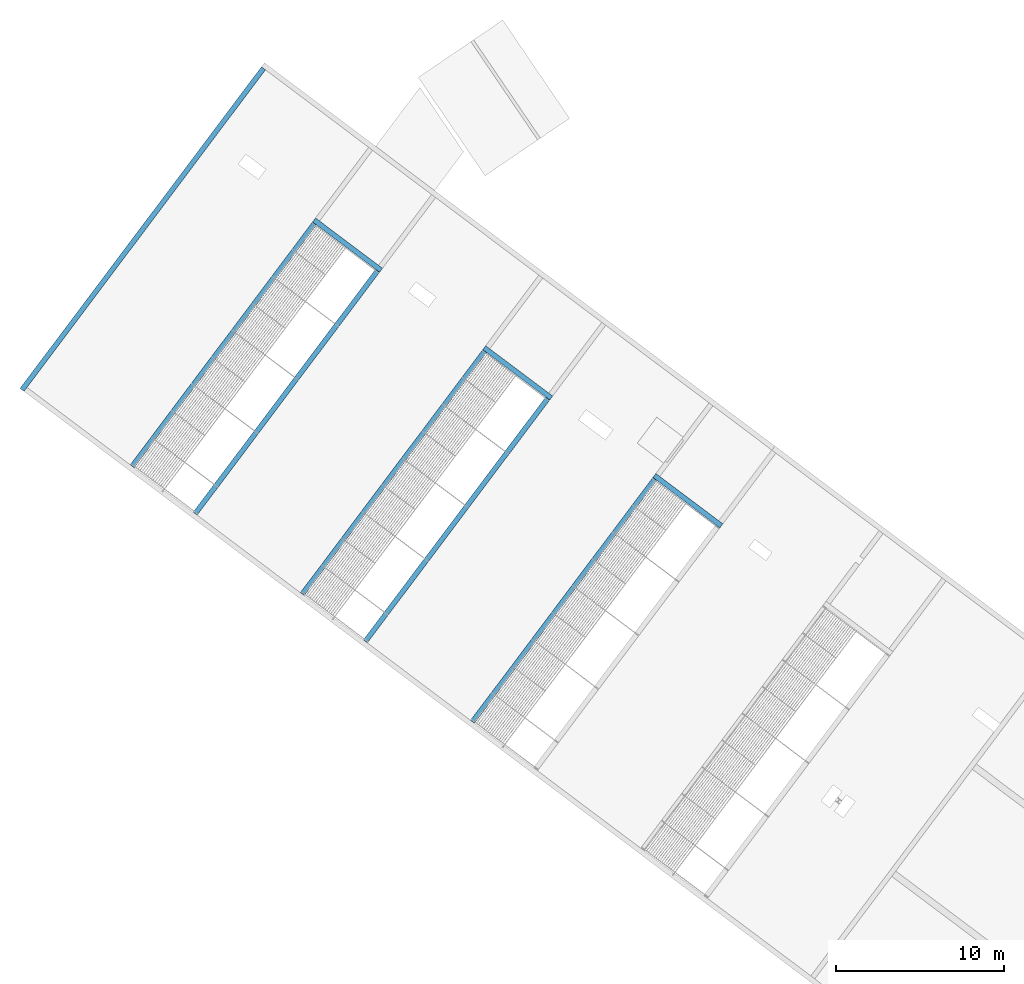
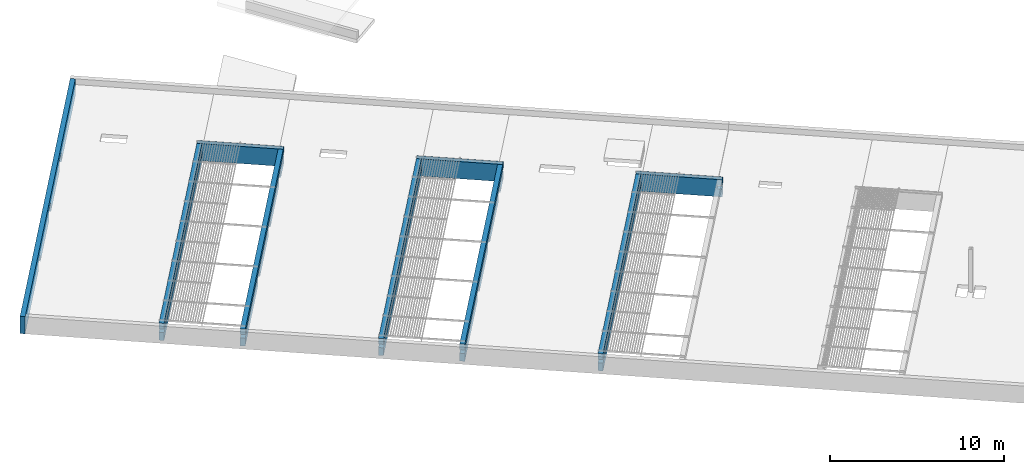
# One storey, part 95 of 95: 9 beams.
"""IFC2X3 building model written with IfcOpenShell, lengths in metres."""

from ifc_helpers import new_model, entity, si_unit, converted_unit, derived_unit, direction, frame, origin, place, context, subcontext, project, spatial, faceted_brep, source, transform, mapped, material, type_object, type_shapes, element, save


model = new_model("IFC2X3")

# Units and contexts
model_context = context("Model", 3, precision=1e-05, world=origin(), true_north=direction((6.123031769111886e-17, 1.0)))
body_context = subcontext(model_context, "Body", "Model", "MODEL_VIEW")
ifc_project = project(units=[si_unit("LENGTHUNIT", "METRE"), si_unit("AREAUNIT", "SQUARE_METRE"), si_unit("VOLUMEUNIT", "CUBIC_METRE"), converted_unit("PLANEANGLEUNIT", "DEGREE", entity("IfcRatioMeasure", 0.017453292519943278), si_unit("PLANEANGLEUNIT", "RADIAN"), dimensions=[0, 0, 0, 0, 0, 0, 0]), si_unit("MASSUNIT", "GRAM", prefix="KILO"), derived_unit("MASSDENSITYUNIT", [(si_unit("MASSUNIT", "GRAM", prefix="KILO"), 1), (si_unit("LENGTHUNIT", "METRE"), -3)]), derived_unit("IONCONCENTRATIONUNIT", [(si_unit("MASSUNIT", "GRAM", prefix="KILO"), 1), (si_unit("LENGTHUNIT", "METRE"), -3)]), derived_unit("MOMENTOFINERTIAUNIT", [(si_unit("LENGTHUNIT", "METRE"), 4)]), si_unit("TIMEUNIT", "SECOND"), si_unit("FREQUENCYUNIT", "HERTZ"), si_unit("THERMODYNAMICTEMPERATUREUNIT", "DEGREE_CELSIUS"), derived_unit("THERMALTRANSMITTANCEUNIT", [(si_unit("MASSUNIT", "GRAM", prefix="KILO"), 1), (si_unit("THERMODYNAMICTEMPERATUREUNIT", "KELVIN"), -1), (si_unit("TIMEUNIT", "SECOND"), -3)]), derived_unit("THERMALCONDUCTANCEUNIT", [(si_unit("MASSUNIT", "GRAM", prefix="KILO"), 1), (si_unit("THERMODYNAMICTEMPERATUREUNIT", "KELVIN"), -1), (si_unit("TIMEUNIT", "SECOND"), -3), (si_unit("LENGTHUNIT", "METRE"), 1)]), derived_unit("VOLUMETRICFLOWRATEUNIT", [(si_unit("LENGTHUNIT", "METRE"), 3), (si_unit("TIMEUNIT", "SECOND"), -1)]), derived_unit("MASSFLOWRATEUNIT", [(si_unit("MASSUNIT", "GRAM", prefix="KILO"), 1), (si_unit("TIMEUNIT", "SECOND"), -1)]), derived_unit("ROTATIONALFREQUENCYUNIT", [(si_unit("TIMEUNIT", "SECOND"), -1)]), si_unit("ELECTRICCURRENTUNIT", "AMPERE"), si_unit("ELECTRICVOLTAGEUNIT", "VOLT"), si_unit("POWERUNIT", "WATT"), si_unit("FORCEUNIT", "NEWTON", prefix="KILO"), si_unit("ILLUMINANCEUNIT", "LUX"), si_unit("LUMINOUSFLUXUNIT", "LUMEN"), si_unit("LUMINOUSINTENSITYUNIT", "CANDELA"), derived_unit("USERDEFINED", [(si_unit("MASSUNIT", "GRAM", prefix="KILO"), -1), (si_unit("LENGTHUNIT", "METRE"), -2), (si_unit("TIMEUNIT", "SECOND"), 3), (si_unit("LUMINOUSFLUXUNIT", "LUMEN"), 1)]), derived_unit("USERDEFINED", [(si_unit("MASSUNIT", "GRAM", prefix="KILO"), 1), (si_unit("TIMEUNIT", "SECOND"), -3), (si_unit("LENGTHUNIT", "METRE"), 3), (si_unit("ELECTRICCURRENTUNIT", "AMPERE"), -2)]), derived_unit("SOUNDPOWERUNIT", [(si_unit("MASSUNIT", "GRAM", prefix="KILO"), 1), (si_unit("TIMEUNIT", "SECOND"), -3), (si_unit("LENGTHUNIT", "METRE"), 2)]), derived_unit("SOUNDPRESSUREUNIT", [(si_unit("MASSUNIT", "GRAM", prefix="KILO"), 1), (si_unit("LENGTHUNIT", "METRE"), -1), (si_unit("TIMEUNIT", "SECOND"), -2)]), derived_unit("LINEARVELOCITYUNIT", [(si_unit("LENGTHUNIT", "METRE"), 1), (si_unit("TIMEUNIT", "SECOND"), -1)]), si_unit("PRESSUREUNIT", "PASCAL"), derived_unit("USERDEFINED", [(si_unit("MASSUNIT", "GRAM", prefix="KILO"), 1), (si_unit("LENGTHUNIT", "METRE"), -2), (si_unit("TIMEUNIT", "SECOND"), -2)]), derived_unit("LINEARFORCEUNIT", [(si_unit("MASSUNIT", "GRAM", prefix="KILO"), 1), (si_unit("TIMEUNIT", "SECOND"), -2)]), derived_unit("PLANARFORCEUNIT", [(si_unit("MASSUNIT", "GRAM", prefix="KILO"), 1), (si_unit("LENGTHUNIT", "METRE"), -1), (si_unit("TIMEUNIT", "SECOND"), -2)]), derived_unit("SPECIFICHEATCAPACITYUNIT", [(si_unit("THERMODYNAMICTEMPERATUREUNIT", "KELVIN"), -1), (si_unit("LENGTHUNIT", "METRE"), 2), (si_unit("TIMEUNIT", "SECOND"), -2)]), derived_unit("HEATINGVALUEUNIT", [(si_unit("LENGTHUNIT", "METRE"), 2), (si_unit("TIMEUNIT", "SECOND"), -2)]), derived_unit("VAPORPERMEABILITYUNIT", [(si_unit("LENGTHUNIT", "METRE"), -1), (si_unit("TIMEUNIT", "SECOND"), 1)]), derived_unit("DYNAMICVISCOSITYUNIT", [(si_unit("MASSUNIT", "GRAM", prefix="KILO"), 1), (si_unit("TIMEUNIT", "SECOND"), -1), (si_unit("LENGTHUNIT", "METRE"), -1)]), derived_unit("THERMALEXPANSIONCOEFFICIENTUNIT", [(si_unit("THERMODYNAMICTEMPERATUREUNIT", "KELVIN"), -1)]), derived_unit("MODULUSOFELASTICITYUNIT", [(si_unit("MASSUNIT", "GRAM", prefix="KILO"), 1), (si_unit("LENGTHUNIT", "METRE"), -1), (si_unit("TIMEUNIT", "SECOND"), -2)]), derived_unit("ISOTHERMALMOISTURECAPACITYUNIT", [(si_unit("LENGTHUNIT", "METRE"), 3), (si_unit("MASSUNIT", "GRAM", prefix="KILO"), -1)]), derived_unit("MOISTUREDIFFUSIVITYUNIT", [(si_unit("TIMEUNIT", "SECOND"), -1), (si_unit("LENGTHUNIT", "METRE"), 2)])], contexts=[model_context])

# Site, building, storey
site_placement = place(None, origin())
site = spatial("IfcSite", under=ifc_project, at=site_placement, Name="Default", CompositionType="ELEMENT")
building_placement = place(site_placement, frame((0.0, 0.0, 235.0), z_axis=(0.0, 0.0, 1.0), x_axis=(-0.7996477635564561, 0.6004693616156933, 0.0)))
building = spatial("IfcBuilding", under=site, at=building_placement, CompositionType="ELEMENT")
storey_placement = place(building_placement, frame((0.0, 0.0, 3.400000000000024)))
storey = spatial("IfcBuildingStorey", under=building, at=storey_placement, Name="PC- Coberta STR", CompositionType="ELEMENT", Elevation=3.400000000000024)

# Beams
ifc_material = material(Name="_Formigó- T1- STR")
beam_type_1 = type_object("IfcBeamType", Name="STR- V- Formigó- Rectangular- T1:30x120 cm", PredefinedType="NOTDEFINED")
beam_1_placement = place(storey_placement, frame((74.44514768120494, -42.040191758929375, -0.8000000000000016), z_axis=(0.0, 0.0, 1.0), x_axis=(0.0, 1.0, 0.0)))
element("IfcBeam", 1, at=beam_1_placement, inside=storey, type_object=beam_type_1, material=ifc_material, Name="STR- V- Formigó- Rectangular- T1:30x120 cm", ObjectType="STR- V- Formigó- Rectangular- T1:30x120 cm", context=body_context, shape_type="Brep", body=[
    faceted_brep([(24.0, -0.29999999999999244, 1.199999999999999), (24.0, 0.0, 1.199999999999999), (23.699999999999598, 0.0, 1.199999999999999), (0.0, 0.0, 1.199999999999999), (0.0, -0.29999999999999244, 1.199999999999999), (24.0, -0.29999999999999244, 0.0), (0.0, -0.29999999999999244, 0.0), (2.724999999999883, -0.29999999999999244, 0.0), (21.89999999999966, -0.29999999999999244, 0.0), (22.349999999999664, -0.29999999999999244, 0.0), (16.674999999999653, -0.2500000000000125, 0.0), (17.574999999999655, -0.2500000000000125, 0.0), (17.574999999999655, 0.0, 0.0), (21.899999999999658, 0.0, 0.0), (22.349999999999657, 0.0, 0.0), (23.699999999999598, 0.0, 0.0), (24.0, 0.0, 0.0), (0.0, 0.0, 0.0), (2.724999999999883, 0.0, 0.0), (6.674999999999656, 0.0, 0.0), (6.674999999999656, -0.24999999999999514, 0.0), (7.57499999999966, -0.24999999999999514, 0.0), (7.57499999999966, 0.0, 0.0), (11.674999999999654, 0.0, 0.0), (11.674999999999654, -0.25000000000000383, 0.0), (12.574999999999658, -0.2500000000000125, 0.0), (12.574999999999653, 0.0, 0.0), (16.674999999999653, 0.0, 0.0), (17.574999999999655, 0.0, 0.5000000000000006), (16.674999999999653, 0.0, 0.5000000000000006), (12.574999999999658, 0.0, 0.7000000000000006), (11.674999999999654, 0.0, 0.7000000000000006), (7.57499999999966, 0.0, 0.7000000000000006), (6.674999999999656, 0.0, 0.7000000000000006), (0.0, 0.0, 0.5500000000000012), (0.0, 0.0, 0.8000000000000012), (16.674999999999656, -0.25000000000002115, 0.5000000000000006), (17.574999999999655, -0.2500000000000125, 0.5000000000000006), (11.67499999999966, -0.2500000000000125, 0.7000000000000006), (12.574999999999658, -0.25000000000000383, 0.7000000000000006), (6.6749999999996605, -0.25000000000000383, 0.7000000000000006), (7.57499999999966, -0.24999999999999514, 0.7000000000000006)], [[[0, 1, 2, 3, 4]], [[5, 0, 4, 6, 7, 8, 9]], [[10, 11, 12, 13, 14, 15, 16, 5, 9, 8, 7, 6, 17, 18, 19, 20, 21, 22, 23, 24, 25, 26, 27]], [[1, 16, 15, 14, 13, 12, 28, 29, 27, 26, 30, 31, 23, 22, 32, 33, 19, 18, 17, 34, 35, 3, 2]], [[36, 37, 11, 10]], [[29, 36, 10, 27]], [[37, 28, 12, 11]], [[37, 36, 29, 28]], [[38, 39, 25, 24]], [[31, 38, 24, 23]], [[39, 30, 26, 25]], [[39, 38, 31, 30]], [[40, 41, 21, 20]], [[33, 40, 20, 19]], [[41, 32, 22, 21]], [[41, 40, 33, 32]], [[1, 0, 5, 16]], [[4, 3, 35, 34, 17, 6]]]),
])
beam_2_placement = place(storey_placement, frame((49.04514768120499, -36.76519175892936, -0.8000000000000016)))
element("IfcBeam", 2, at=beam_2_placement, inside=storey, type_object=beam_type_1, material=ifc_material, Name="STR- V- Formigó- Rectangular- T1:30x120 cm", ObjectType="STR- V- Formigó- Rectangular- T1:30x120 cm", context=body_context, shape_type="Brep", body=[
    faceted_brep([(0.0, 0.3000000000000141, 1.199999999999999), (0.0, 0.0, 1.199999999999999), (5.0, 0.0, 1.199999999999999), (5.0, 0.3000000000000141, 1.199999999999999), (4.699999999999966, 0.3000000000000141, 1.199999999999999), (0.2999999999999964, 0.3000000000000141, 1.199999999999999), (0.0, 0.0, 0.8000000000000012), (0.2999999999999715, 0.0, 0.8000000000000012), (0.2999999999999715, 0.0, 0.5500000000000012), (0.0, 0.0, 0.5500000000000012), (0.0, 0.0, 0.0), (0.29999999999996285, 0.0, 0.0), (4.69999999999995, 0.0, 0.0), (5.0, 0.0, 0.0), (5.0, 0.0, 0.5500000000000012), (4.699999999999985, 0.0, 0.5500000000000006), (4.699999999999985, 0.0, 0.8000000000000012), (5.0, 0.0, 0.8000000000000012), (0.0, 0.3000000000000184, 0.0), (0.2999999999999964, 0.3000000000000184, 0.0), (4.699999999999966, 0.3000000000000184, 0.0), (5.0, 0.3000000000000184, 0.0), (5.0, 0.3000000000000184, 0.8000000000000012), (4.699999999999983, 0.3000000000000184, 0.8000000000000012), (4.699999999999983, 0.3000000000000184, 0.5500000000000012), (5.0, 0.3000000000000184, 0.5500000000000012), (0.0, 0.3000000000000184, 0.5500000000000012), (0.2999999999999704, 0.3000000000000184, 0.5500000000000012), (0.2999999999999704, 0.3000000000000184, 0.8000000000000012), (0.0, 0.3000000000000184, 0.8000000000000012)], [[[0, 1, 2, 3, 4, 5]], [[2, 1, 6, 7, 8, 9, 10, 11, 12, 13, 14, 15, 16, 17]], [[10, 18, 19, 20, 21, 13, 12, 11]], [[0, 5, 4, 3, 22, 23, 24, 25, 21, 20, 19, 18, 26, 27, 28, 29]], [[1, 0, 29, 6]], [[8, 27, 26, 9]], [[28, 7, 6, 29]], [[27, 8, 7, 28]], [[18, 10, 9, 26]], [[15, 24, 23, 16]], [[24, 15, 14, 25]], [[16, 23, 22, 17]], [[13, 21, 25, 14]], [[3, 2, 17, 22]]]),
])
beam_3_placement = place(storey_placement, frame((61.74514768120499, -36.765191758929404, -0.8000000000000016)))
element("IfcBeam", 3, at=beam_3_placement, inside=storey, type_object=beam_type_1, material=ifc_material, Name="STR- V- Formigó- Rectangular- T1:30x120 cm", ObjectType="STR- V- Formigó- Rectangular- T1:30x120 cm", context=body_context, shape_type="Brep", body=[
    faceted_brep([(0.0, 0.30000000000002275, 1.199999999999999), (0.0, 0.0, 1.199999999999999), (5.0, 0.0, 1.199999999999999), (5.0, 0.30000000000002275, 1.199999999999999), (4.699999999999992, 0.30000000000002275, 1.199999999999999), (0.30000000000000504, 0.30000000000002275, 1.199999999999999), (0.0, 0.0, 0.8000000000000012), (0.29999999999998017, 0.0, 0.8000000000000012), (0.29999999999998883, 0.0, 0.5500000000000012), (0.0, 0.0, 0.5500000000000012), (0.0, 0.0, 0.0), (0.2999999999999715, 0.0, 0.0), (4.699999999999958, 0.0, 0.0), (5.0, 0.0, 0.0), (5.0, 0.0, 0.5500000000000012), (4.699999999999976, 0.0, 0.5500000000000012), (4.699999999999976, 0.0, 0.8000000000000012), (5.0, 0.0, 0.8000000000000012), (0.0, 0.3000000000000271, 0.0), (0.30000000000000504, 0.3000000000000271, 0.0), (4.699999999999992, 0.3000000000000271, 0.0), (5.0, 0.3000000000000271, 0.0), (5.0, 0.3000000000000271, 0.8000000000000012), (4.699999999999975, 0.3000000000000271, 0.8000000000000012), (4.699999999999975, 0.3000000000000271, 0.5500000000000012), (5.0, 0.3000000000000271, 0.5500000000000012), (0.0, 0.3000000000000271, 0.5500000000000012), (0.29999999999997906, 0.3000000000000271, 0.5500000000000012), (0.29999999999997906, 0.3000000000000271, 0.8000000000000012), (0.0, 0.3000000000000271, 0.8000000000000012)], [[[0, 1, 2, 3, 4, 5]], [[2, 1, 6, 7, 8, 9, 10, 11, 12, 13, 14, 15, 16, 17]], [[10, 18, 19, 20, 21, 13, 12, 11]], [[0, 5, 4, 3, 22, 23, 24, 25, 21, 20, 19, 18, 26, 27, 28, 29]], [[1, 0, 29, 6]], [[13, 21, 25, 14]], [[8, 27, 26, 9]], [[28, 7, 6, 29]], [[27, 8, 7, 28]], [[15, 24, 23, 16]], [[18, 10, 9, 26]], [[3, 2, 17, 22]], [[24, 15, 14, 25]], [[16, 23, 22, 17]]]),
])
beam_4_placement = place(storey_placement, frame((36.345147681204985, -36.76519175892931, -0.8000000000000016)))
element("IfcBeam", 4, at=beam_4_placement, inside=storey, type_object=beam_type_1, material=ifc_material, Name="STR- V- Formigó- Rectangular- T1:30x120 cm", ObjectType="STR- V- Formigó- Rectangular- T1:30x120 cm", context=body_context, shape_type="Brep", body=[
    faceted_brep([(0.0, 0.3000000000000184, 1.199999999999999), (0.0, 0.0, 1.199999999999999), (5.0, 0.0, 1.199999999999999), (5.0, 0.3000000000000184, 1.199999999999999), (4.699999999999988, 0.3000000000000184, 1.199999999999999), (0.3000000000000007, 0.3000000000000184, 1.199999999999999), (0.0, 0.0, 0.8000000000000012), (0.3000000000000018, 0.0, 0.8000000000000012), (0.3000000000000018, 0.0, 0.5500000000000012), (0.0, 0.0, 0.5500000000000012), (0.0, 0.0, 0.0), (0.29999999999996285, 0.0, 0.0), (4.699999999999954, 0.0, 0.0), (5.0, 0.0, 0.0), (5.0, 0.0, 0.5500000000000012), (4.699999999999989, 0.0, 0.5500000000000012), (4.699999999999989, 0.0, 0.8000000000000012), (5.0, 0.0, 0.8000000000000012), (0.0, 0.30000000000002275, 0.0), (0.3000000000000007, 0.30000000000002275, 0.0), (4.699999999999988, 0.30000000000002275, 0.0), (5.0, 0.30000000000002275, 0.0), (5.0, 0.30000000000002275, 0.8000000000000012), (4.699999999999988, 0.30000000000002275, 0.8000000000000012), (4.699999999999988, 0.30000000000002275, 0.5500000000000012), (5.0, 0.30000000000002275, 0.5500000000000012), (0.0, 0.30000000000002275, 0.5500000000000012), (0.3000000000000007, 0.30000000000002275, 0.5500000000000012), (0.3000000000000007, 0.30000000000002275, 0.8000000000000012), (0.0, 0.30000000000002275, 0.8000000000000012)], [[[0, 1, 2, 3, 4, 5]], [[2, 1, 6, 7, 8, 9, 10, 11, 12, 13, 14, 15, 16, 17]], [[10, 18, 19, 20, 21, 13, 12, 11]], [[0, 5, 4, 3, 22, 23, 24, 25, 21, 20, 19, 18, 26, 27, 28, 29]], [[1, 0, 29, 6]], [[13, 21, 25, 14]], [[8, 27, 26, 9]], [[28, 7, 6, 29]], [[27, 8, 7, 28]], [[18, 10, 9, 26]], [[24, 15, 14, 25]], [[16, 23, 22, 17]], [[15, 24, 23, 16]], [[3, 2, 17, 22]]]),
])
beam_type_2 = type_object("IfcBeamType", Name="STR- V- Formigó- Rectangular- T1:30x120 cm", PredefinedType="BEAM", material=ifc_material)
shared_shape_1 = source(origin(), body_context, "Body", "Brep", [
    faceted_brep([(0.30000000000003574, 18.124999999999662, 1.199999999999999), (0.0, 18.124999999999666, 1.199999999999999), (0.0, 0.0, 1.199999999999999), (0.30000000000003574, 0.0, 1.199999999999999), (0.30000000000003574, 18.124999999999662, 0.8000000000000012), (0.30000000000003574, 0.0, 0.8000000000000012), (0.0, 18.124999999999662, 0.8000000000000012), (0.0, 0.0, 0.8000000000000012)], [[[0, 1, 2, 3]], [[4, 0, 3, 5]], [[4, 6, 1, 0]], [[6, 4, 5, 7]], [[1, 6, 7, 2]], [[3, 2, 7, 5]]]),
    faceted_brep([(0.0, 11.099999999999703, 0.5000000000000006), (0.0, 11.0999999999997, 0.0), (0.0, 7.0, 0.0), (0.0, 7.0, 0.5000000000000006), (0.0, 6.099999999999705, 0.5000000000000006), (0.0, 6.099999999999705, 0.0), (0.0, 2.0, 0.0), (0.0, 2.0, 0.5000000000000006), (0.0, 1.0999999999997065, 0.5000000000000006), (0.0, 1.0999999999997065, 0.0), (0.0, 0.0, 0.0), (0.0, 0.0, 0.5500000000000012), (0.0, 18.124999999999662, 0.5500000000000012), (0.0, 18.124999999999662, 0.0), (0.0, 16.774999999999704, 0.0), (0.0, 16.3249999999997, 0.0), (0.0, 12.0, 0.0), (0.0, 12.0, 0.5000000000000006), (0.2500000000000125, 11.099999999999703, 0.0), (0.2500000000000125, 12.0, 0.0), (0.30000000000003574, 18.124999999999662, 0.0), (0.30000000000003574, 16.774999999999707, 0.0), (0.30000000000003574, 16.324999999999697, 0.0), (0.30000000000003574, 0.0, 0.0), (0.24999999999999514, 1.099999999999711, 0.0), (0.24999999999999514, 2.0, 0.0), (0.25000000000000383, 6.099999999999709, 0.0), (0.2500000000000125, 7.0, 0.0), (0.25000000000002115, 11.099999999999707, 0.5000000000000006), (0.2500000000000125, 12.0, 0.5000000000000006), (0.2500000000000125, 6.099999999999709, 0.5000000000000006), (0.25000000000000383, 7.0, 0.5000000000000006), (0.25000000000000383, 1.099999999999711, 0.5000000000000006), (0.24999999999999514, 2.0, 0.5000000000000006), (0.30000000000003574, 18.124999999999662, 0.5500000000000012), (0.30000000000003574, 0.0, 0.5500000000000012)], [[[0, 1, 2, 3, 4, 5, 6, 7, 8, 9, 10, 11, 12, 13, 14, 15, 16, 17]], [[18, 19, 16, 15, 14, 13, 20, 21, 22, 23, 10, 9, 24, 25, 6, 5, 26, 27, 2, 1]], [[28, 29, 19, 18]], [[0, 28, 18, 1]], [[29, 17, 16, 19]], [[29, 28, 0, 17]], [[30, 31, 27, 26]], [[4, 30, 26, 5]], [[31, 3, 2, 27]], [[31, 30, 4, 3]], [[32, 33, 25, 24]], [[8, 32, 24, 9]], [[33, 7, 6, 25]], [[33, 32, 8, 7]], [[34, 12, 11, 35]], [[20, 34, 35, 23, 22, 21]], [[12, 34, 20, 13]], [[11, 10, 23, 35]]]),
])
type_shapes(beam_type_2, [shared_shape_1])
beam_5_placement = place(storey_placement, frame((49.045147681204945, -36.465191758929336, -0.8000000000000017)))
element("IfcBeam", 5, at=beam_5_placement, inside=storey, type_object=beam_type_2, material=ifc_material, Name="STR- V- Formigó- Rectangular- T1:30x120 cm", ObjectType="STR- V- Formigó- Rectangular- T1:30x120 cm", context=body_context, shape_type="MappedRepresentation", body=[
    mapped(shared_shape_1, transform((0.0, 0.0, 0.0), scale=1.0)),
])
beam_type_3 = type_object("IfcBeamType", Name="STR- V- Formigó- Rectangular- T1:30x120 cm", PredefinedType="BEAM", material=ifc_material)
shared_shape_2 = source(origin(), body_context, "Body", "Brep", [
    faceted_brep([(0.0, 0.0, 1.199999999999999), (0.3000000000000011, 0.0, 1.199999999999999), (0.3000000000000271, 18.124999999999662, 1.199999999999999), (0.0, 18.124999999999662, 1.199999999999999), (0.3000000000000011, 0.0, 0.8000000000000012), (0.3000000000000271, 18.124999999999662, 0.8000000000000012), (0.0, 0.0, 0.8000000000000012), (0.0, 18.124999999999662, 0.8000000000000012)], [[[0, 1, 2, 3]], [[4, 5, 2, 1]], [[6, 7, 5, 4]], [[1, 0, 6, 4]], [[3, 2, 5, 7]], [[7, 6, 0, 3]]]),
    faceted_brep([(0.0, 0.0, 0.5500000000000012), (0.0, 18.124999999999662, 0.5500000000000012), (0.0, 18.124999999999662, 0.0), (0.0, 16.774999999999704, 0.0), (0.0, 16.3249999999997, 0.0), (0.0, 0.0, 0.0), (0.050000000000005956, 11.099999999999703, 0.0), (0.3000000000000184, 11.0999999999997, 0.0), (0.30000000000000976, 7.0, 0.0), (0.050000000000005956, 7.0, 0.0), (0.0499999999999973, 6.099999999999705, 0.0), (0.30000000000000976, 6.099999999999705, 0.0), (0.3000000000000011, 2.0, 0.0), (0.0499999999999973, 2.0, 0.0), (0.04999999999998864, 1.0999999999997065, 0.0), (0.3000000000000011, 1.0999999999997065, 0.0), (0.3000000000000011, 0.0, 0.0), (0.3000000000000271, 18.124999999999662, 0.0), (0.3000000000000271, 16.774999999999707, 0.0), (0.3000000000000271, 16.324999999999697, 0.0), (0.3000000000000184, 12.0, 0.0), (0.05000000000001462, 12.0, 0.0), (0.05000000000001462, 11.099999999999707, 0.5000000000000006), (0.3000000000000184, 11.099999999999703, 0.5000000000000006), (0.05000000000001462, 12.0, 0.5000000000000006), (0.3000000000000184, 12.0, 0.5000000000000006), (0.050000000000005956, 6.099999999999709, 0.5000000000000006), (0.30000000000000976, 6.099999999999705, 0.5000000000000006), (0.050000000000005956, 7.0, 0.5000000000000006), (0.30000000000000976, 7.0, 0.5000000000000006), (0.0499999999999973, 1.099999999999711, 0.5000000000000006), (0.3000000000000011, 1.0999999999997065, 0.5000000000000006), (0.0499999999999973, 2.0, 0.5000000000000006), (0.3000000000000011, 2.0, 0.5000000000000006), (0.3000000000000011, 0.0, 0.5500000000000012), (0.3000000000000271, 18.124999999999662, 0.5500000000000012)], [[[0, 1, 2, 3, 4, 5]], [[6, 7, 8, 9, 10, 11, 12, 13, 14, 15, 16, 5, 4, 3, 2, 17, 18, 19, 20, 21]], [[22, 23, 7, 6]], [[24, 22, 6, 21]], [[25, 24, 21, 20]], [[23, 22, 24, 25]], [[26, 27, 11, 10]], [[28, 26, 10, 9]], [[29, 28, 9, 8]], [[27, 26, 28, 29]], [[30, 31, 15, 14]], [[32, 30, 14, 13]], [[33, 32, 13, 12]], [[31, 30, 32, 33]], [[1, 0, 34, 35]], [[5, 16, 34, 0]], [[7, 23, 25, 20, 19, 18, 17, 35, 34, 16, 15, 31, 33, 12, 11, 27, 29, 8]], [[2, 1, 35, 17]]]),
])
type_shapes(beam_type_3, [shared_shape_2])
beam_6_placement = place(storey_placement, frame((53.74514768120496, -36.46519175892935, -0.8000000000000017)))
element("IfcBeam", 6, at=beam_6_placement, inside=storey, type_object=beam_type_3, material=ifc_material, Name="STR- V- Formigó- Rectangular- T1:30x120 cm", ObjectType="STR- V- Formigó- Rectangular- T1:30x120 cm", context=body_context, shape_type="MappedRepresentation", body=[
    mapped(shared_shape_2, transform((0.0, 0.0, 0.0), scale=1.0)),
])
beam_type_4 = type_object("IfcBeamType", Name="STR- V- Formigó- Rectangular- T1:30x120 cm", PredefinedType="BEAM", material=ifc_material)
shared_shape_3 = source(origin(), body_context, "Body", "Brep", [
    faceted_brep([(0.0, 0.0, 1.199999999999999), (0.30000000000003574, 0.0, 1.199999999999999), (0.30000000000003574, 18.12499999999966, 1.199999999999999), (0.0, 18.124999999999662, 1.199999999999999), (0.0, 18.124999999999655, 0.8000000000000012), (0.0, 0.0, 0.8000000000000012), (0.30000000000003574, 0.0, 0.8000000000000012), (0.30000000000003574, 18.124999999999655, 0.8000000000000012)], [[[0, 1, 2, 3]], [[0, 3, 4, 5]], [[2, 1, 6, 7]], [[3, 2, 7, 4]], [[5, 4, 7, 6]], [[1, 0, 5, 6]]]),
    faceted_brep([(0.30000000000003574, 0.0, 0.0), (0.0, 0.0, 0.0), (0.0, 1.099999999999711, 0.0), (0.24999999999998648, 1.099999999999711, 0.0), (0.24999999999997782, 2.0, 0.0), (0.0, 2.0, 0.0), (0.0, 6.099999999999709, 0.0), (0.24999999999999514, 6.099999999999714, 0.0), (0.24999999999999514, 7.0, 0.0), (0.0, 7.0, 0.0), (0.0, 11.099999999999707, 0.0), (0.25000000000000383, 11.099999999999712, 0.0), (0.25000000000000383, 12.0, 0.0), (0.0, 12.0, 0.0), (0.0, 16.324999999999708, 0.0), (0.0, 16.774999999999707, 0.0), (0.0, 18.12499999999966, 0.0), (0.30000000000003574, 18.12499999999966, 0.0), (0.30000000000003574, 16.77499999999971, 0.0), (0.30000000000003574, 16.3249999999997, 0.0), (0.30000000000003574, 0.0, 0.5500000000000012), (0.0, 0.0, 0.5500000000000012), (0.2500000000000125, 11.099999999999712, 0.5000000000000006), (0.25000000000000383, 12.0, 0.5000000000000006), (0.0, 11.099999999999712, 0.5000000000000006), (0.0, 12.0, 0.5000000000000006), (0.25000000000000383, 6.099999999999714, 0.5000000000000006), (0.24999999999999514, 7.0, 0.5000000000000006), (0.0, 6.099999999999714, 0.5000000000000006), (0.0, 7.0, 0.5000000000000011), (0.24999999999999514, 1.0999999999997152, 0.5000000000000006), (0.24999999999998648, 2.0, 0.5000000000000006), (0.0, 1.0999999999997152, 0.5000000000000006), (0.0, 2.0, 0.5000000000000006), (0.0, 18.12499999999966, 0.5500000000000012), (0.30000000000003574, 18.12499999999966, 0.5500000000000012)], [[[0, 1, 2, 3, 4, 5, 6, 7, 8, 9, 10, 11, 12, 13, 14, 15, 16, 17, 18, 19]], [[1, 0, 20, 21]], [[22, 23, 12, 11]], [[24, 22, 11, 10]], [[23, 25, 13, 12]], [[23, 22, 24, 25]], [[26, 27, 8, 7]], [[28, 26, 7, 6]], [[27, 29, 9, 8]], [[27, 26, 28, 29]], [[30, 31, 4, 3]], [[32, 30, 3, 2]], [[31, 33, 5, 4]], [[31, 30, 32, 33]], [[34, 21, 20, 35]], [[16, 15, 14, 13, 25, 24, 10, 9, 29, 28, 6, 5, 33, 32, 2, 1, 21, 34]], [[0, 19, 18, 17, 35, 20]], [[17, 16, 34, 35]]]),
])
type_shapes(beam_type_4, [shared_shape_3])
beam_7_placement = place(storey_placement, frame((61.74514768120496, -36.465191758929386, -0.8000000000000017)))
element("IfcBeam", 7, at=beam_7_placement, inside=storey, type_object=beam_type_4, material=ifc_material, Name="STR- V- Formigó- Rectangular- T1:30x120 cm", ObjectType="STR- V- Formigó- Rectangular- T1:30x120 cm", context=body_context, shape_type="MappedRepresentation", body=[
    mapped(shared_shape_3, transform((0.0, 0.0, 0.0), scale=1.0)),
])
beam_type_5 = type_object("IfcBeamType", Name="STR- V- Formigó- Rectangular- T1:30x120 cm", PredefinedType="BEAM", material=ifc_material)
shared_shape_4 = source(origin(), body_context, "Body", "Brep", [
    faceted_brep([(0.0, 0.0, 1.199999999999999), (0.3000000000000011, 0.0, 1.199999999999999), (0.3000000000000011, 18.124999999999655, 1.199999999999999), (0.0, 18.12499999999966, 1.199999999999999), (0.0, 18.12499999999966, 0.8000000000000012), (0.0, 0.0, 0.8000000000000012), (0.3000000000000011, 0.0, 0.8000000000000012), (0.3000000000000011, 18.124999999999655, 0.8000000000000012)], [[[0, 1, 2, 3]], [[0, 3, 4, 5]], [[2, 1, 6, 7]], [[3, 2, 7, 4]], [[5, 4, 7, 6]], [[1, 0, 5, 6]]]),
    faceted_brep([(0.3000000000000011, 0.0, 0.0), (0.0, 0.0, 0.0), (0.0, 16.324999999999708, 0.0), (0.0, 16.774999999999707, 0.0), (0.0, 18.12499999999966, 0.0), (0.3000000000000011, 18.124999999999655, 0.0), (0.3000000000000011, 16.774999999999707, 0.0), (0.3000000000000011, 16.324999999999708, 0.0), (0.3000000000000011, 12.0, 0.0), (0.04999999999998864, 12.0, 0.0), (0.04999999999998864, 11.099999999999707, 0.0), (0.3000000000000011, 11.099999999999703, 0.0), (0.3000000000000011, 7.0, 0.0), (0.04999999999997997, 7.0, 0.0), (0.04999999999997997, 6.099999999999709, 0.0), (0.3000000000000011, 6.099999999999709, 0.0), (0.3000000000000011, 2.0, 0.0), (0.04999999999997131, 2.0, 0.0), (0.04999999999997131, 1.099999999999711, 0.0), (0.3000000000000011, 1.099999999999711, 0.0), (0.3000000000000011, 0.0, 0.5500000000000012), (0.0, 0.0, 0.5500000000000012), (0.04999999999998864, 11.099999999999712, 0.5000000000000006), (0.3000000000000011, 11.099999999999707, 0.5000000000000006), (0.04999999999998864, 12.0, 0.5000000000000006), (0.29999999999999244, 12.0, 0.5000000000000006), (0.04999999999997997, 6.099999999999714, 0.5000000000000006), (0.3000000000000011, 6.099999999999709, 0.5000000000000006), (0.04999999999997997, 7.0, 0.5000000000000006), (0.2999999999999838, 7.0, 0.5000000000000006), (0.04999999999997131, 1.0999999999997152, 0.5000000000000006), (0.3000000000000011, 1.099999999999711, 0.5000000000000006), (0.04999999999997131, 2.0, 0.5000000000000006), (0.2999999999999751, 2.0, 0.5000000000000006), (0.0, 18.124999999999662, 0.5500000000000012), (0.3000000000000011, 18.12499999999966, 0.5500000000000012)], [[[0, 1, 2, 3, 4, 5, 6, 7, 8, 9, 10, 11, 12, 13, 14, 15, 16, 17, 18, 19]], [[1, 0, 20, 21]], [[22, 23, 11, 10]], [[24, 22, 10, 9]], [[25, 24, 9, 8]], [[23, 22, 24, 25]], [[26, 27, 15, 14]], [[28, 26, 14, 13]], [[29, 28, 13, 12]], [[27, 26, 28, 29]], [[30, 31, 19, 18]], [[32, 30, 18, 17]], [[33, 32, 17, 16]], [[31, 30, 32, 33]], [[34, 21, 20, 35]], [[4, 3, 2, 1, 21, 34]], [[8, 7, 6, 5, 35, 20, 0, 19, 31, 33, 16, 15, 27, 29, 12, 11, 23, 25]], [[5, 4, 34, 35]]]),
])
type_shapes(beam_type_5, [shared_shape_4])
beam_8_placement = place(storey_placement, frame((66.44514768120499, -36.4651917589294, -0.8000000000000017)))
element("IfcBeam", 8, at=beam_8_placement, inside=storey, type_object=beam_type_5, material=ifc_material, Name="STR- V- Formigó- Rectangular- T1:30x120 cm", ObjectType="STR- V- Formigó- Rectangular- T1:30x120 cm", context=body_context, shape_type="MappedRepresentation", body=[
    mapped(shared_shape_4, transform((0.0, 0.0, 0.0), scale=1.0)),
])
beam_type_6 = type_object("IfcBeamType", Name="STR- V- Formigó- Rectangular- T1:30x120 cm", PredefinedType="BEAM", material=ifc_material)
shared_shape_5 = source(origin(), body_context, "Body", "Brep", [
    faceted_brep([(0.0, 0.0, 1.199999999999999), (0.3000000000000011, 0.0, 1.199999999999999), (0.3000000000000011, 18.124999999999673, 1.199999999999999), (0.0, 18.124999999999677, 1.199999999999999), (0.0, 18.124999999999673, 0.8000000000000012), (0.0, 0.0, 0.8000000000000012), (0.3000000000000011, 0.0, 0.8000000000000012), (0.3000000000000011, 18.124999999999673, 0.8000000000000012)], [[[0, 1, 2, 3]], [[0, 3, 4, 5]], [[2, 1, 6, 7]], [[3, 2, 7, 4]], [[5, 4, 7, 6]], [[1, 0, 5, 6]]]),
    faceted_brep([(0.3000000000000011, 0.0, 0.0), (0.0, 0.0, 0.0), (0.0, 16.324999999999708, 0.0), (0.0, 16.774999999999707, 0.0), (0.0, 18.124999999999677, 0.0), (0.3000000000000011, 18.124999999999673, 0.0), (0.3000000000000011, 16.774999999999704, 0.0), (0.3000000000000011, 16.324999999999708, 0.0), (0.3000000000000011, 12.0, 0.0), (0.050000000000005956, 12.0, 0.0), (0.050000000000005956, 11.099999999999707, 0.0), (0.3000000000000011, 11.099999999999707, 0.0), (0.3000000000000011, 7.0, 0.0), (0.0499999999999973, 7.0, 0.0), (0.04999999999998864, 6.099999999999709, 0.0), (0.3000000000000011, 6.099999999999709, 0.0), (0.3000000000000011, 2.0, 0.0), (0.04999999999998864, 2.0, 0.0), (0.04999999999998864, 1.099999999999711, 0.0), (0.3000000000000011, 1.099999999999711, 0.0), (0.3000000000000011, 0.0, 0.5500000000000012), (0.0, 0.0, 0.5500000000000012), (0.050000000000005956, 11.099999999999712, 0.5000000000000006), (0.3000000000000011, 11.099999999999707, 0.5000000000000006), (0.050000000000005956, 12.0, 0.5000000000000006), (0.30000000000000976, 12.0, 0.5000000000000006), (0.0499999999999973, 6.099999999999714, 0.5000000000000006), (0.3000000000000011, 6.099999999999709, 0.5000000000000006), (0.0499999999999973, 7.0, 0.5000000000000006), (0.3000000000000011, 7.0, 0.5000000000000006), (0.04999999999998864, 1.0999999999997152, 0.5000000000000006), (0.3000000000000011, 1.099999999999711, 0.5000000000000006), (0.04999999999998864, 2.0, 0.5000000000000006), (0.29999999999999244, 2.0, 0.5000000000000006), (0.0, 18.124999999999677, 0.5500000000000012), (0.3000000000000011, 18.124999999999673, 0.5500000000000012)], [[[0, 1, 2, 3, 4, 5, 6, 7, 8, 9, 10, 11, 12, 13, 14, 15, 16, 17, 18, 19]], [[1, 0, 20, 21]], [[22, 23, 11, 10]], [[24, 22, 10, 9]], [[25, 24, 9, 8]], [[23, 22, 24, 25]], [[26, 27, 15, 14]], [[28, 26, 14, 13]], [[29, 28, 13, 12]], [[27, 26, 28, 29]], [[30, 31, 19, 18]], [[32, 30, 18, 17]], [[33, 32, 17, 16]], [[31, 30, 32, 33]], [[34, 21, 20, 35]], [[4, 3, 2, 1, 21, 34]], [[8, 7, 6, 5, 35, 20, 0, 19, 31, 33, 16, 15, 27, 29, 12, 11, 23, 25]], [[5, 4, 34, 35]]]),
])
type_shapes(beam_type_6, [shared_shape_5])
beam_9_placement = place(storey_placement, frame((41.04514768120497, -36.465191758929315, -0.8000000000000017)))
element("IfcBeam", 9, at=beam_9_placement, inside=storey, type_object=beam_type_6, material=ifc_material, Name="STR- V- Formigó- Rectangular- T1:30x120 cm", ObjectType="STR- V- Formigó- Rectangular- T1:30x120 cm", context=body_context, shape_type="MappedRepresentation", body=[
    mapped(shared_shape_5, transform((0.0, 0.0, 0.0), scale=1.0)),
])

save(model, "model.ifc")
